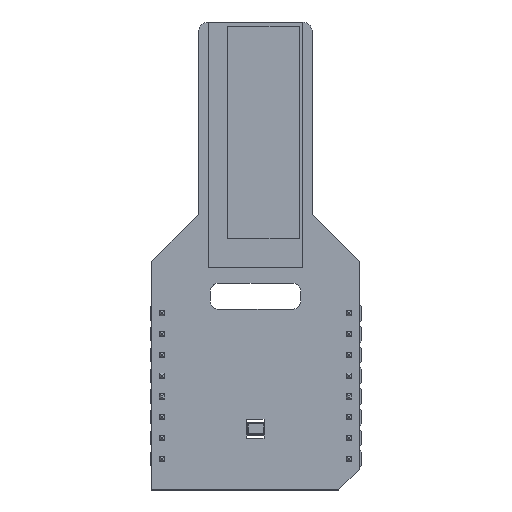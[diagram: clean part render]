
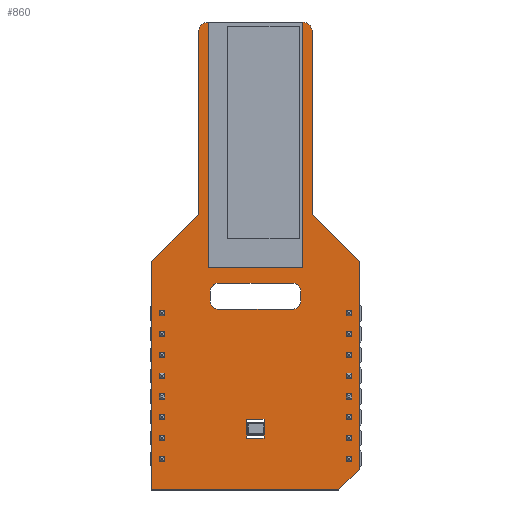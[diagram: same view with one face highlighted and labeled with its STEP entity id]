
A CAD part, top view. The second image highlights one B-rep face of the part: STEP entity #860.
In plain terms, the highlighted planar face has unit normal (0, 0, 1).
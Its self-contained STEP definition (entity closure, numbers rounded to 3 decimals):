
#107 = VERTEX_POINT('',#108);
#108 = CARTESIAN_POINT('',(-1.27,-3.81,0.));
#114 = EDGE_CURVE('',#107,#115,#117,.T.);
#115 = VERTEX_POINT('',#116);
#116 = CARTESIAN_POINT('',(-1.27,24.13,0.));
#117 = LINE('',#118,#119);
#118 = CARTESIAN_POINT('',(-1.27,-3.81,0.));
#119 = VECTOR('',#120,1.);
#120 = DIRECTION('',(0.,1.,0.));
#145 = EDGE_CURVE('',#115,#146,#148,.T.);
#146 = VERTEX_POINT('',#147);
#147 = CARTESIAN_POINT('',(4.47,29.87,0.));
#148 = LINE('',#149,#150);
#149 = CARTESIAN_POINT('',(-1.27,24.13,0.));
#150 = VECTOR('',#151,1.);
#151 = DIRECTION('',(0.707,0.707,0.));
#176 = EDGE_CURVE('',#146,#177,#179,.T.);
#177 = VERTEX_POINT('',#178);
#178 = CARTESIAN_POINT('',(4.47,52.197,0.));
#179 = LINE('',#180,#181);
#180 = CARTESIAN_POINT('',(4.47,29.87,0.));
#181 = VECTOR('',#182,1.);
#182 = DIRECTION('',(0.,1.,0.));
#207 = EDGE_CURVE('',#177,#208,#210,.T.);
#208 = VERTEX_POINT('',#209);
#209 = CARTESIAN_POINT('',(5.613,53.34,0.));
#210 = CIRCLE('',#211,1.144);
#211 = AXIS2_PLACEMENT_3D('',#212,#213,#214);
#212 = CARTESIAN_POINT('',(5.614,52.196,0.));
#213 = DIRECTION('',(0.,0.,-1.));
#214 = DIRECTION('',(-1.,0.001,0.));
#240 = EDGE_CURVE('',#208,#241,#243,.T.);
#241 = VERTEX_POINT('',#242);
#242 = CARTESIAN_POINT('',(17.221,53.34,0.));
#243 = LINE('',#244,#245);
#244 = CARTESIAN_POINT('',(5.613,53.34,0.));
#245 = VECTOR('',#246,1.);
#246 = DIRECTION('',(1.,0.,0.));
#271 = EDGE_CURVE('',#241,#272,#274,.T.);
#272 = VERTEX_POINT('',#273);
#273 = CARTESIAN_POINT('',(18.364,52.197,0.));
#274 = CIRCLE('',#275,1.144);
#275 = AXIS2_PLACEMENT_3D('',#276,#277,#278);
#276 = CARTESIAN_POINT('',(17.22,52.196,0.));
#277 = DIRECTION('',(0.,0.,-1.));
#278 = DIRECTION('',(0.001,1.,0.));
#304 = EDGE_CURVE('',#272,#305,#307,.T.);
#305 = VERTEX_POINT('',#306);
#306 = CARTESIAN_POINT('',(18.364,29.896,0.));
#307 = LINE('',#308,#309);
#308 = CARTESIAN_POINT('',(18.364,52.197,0.));
#309 = VECTOR('',#310,1.);
#310 = DIRECTION('',(0.,-1.,0.));
#335 = EDGE_CURVE('',#305,#336,#338,.T.);
#336 = VERTEX_POINT('',#337);
#337 = CARTESIAN_POINT('',(24.13,24.13,0.));
#338 = LINE('',#339,#340);
#339 = CARTESIAN_POINT('',(18.364,29.896,0.));
#340 = VECTOR('',#341,1.);
#341 = DIRECTION('',(0.707,-0.707,0.));
#366 = EDGE_CURVE('',#336,#367,#369,.T.);
#367 = VERTEX_POINT('',#368);
#368 = CARTESIAN_POINT('',(24.13,-1.27,0.));
#369 = LINE('',#370,#371);
#370 = CARTESIAN_POINT('',(24.13,24.13,0.));
#371 = VECTOR('',#372,1.);
#372 = DIRECTION('',(0.,-1.,0.));
#397 = EDGE_CURVE('',#367,#398,#400,.T.);
#398 = VERTEX_POINT('',#399);
#399 = CARTESIAN_POINT('',(21.59,-3.81,0.));
#400 = LINE('',#401,#402);
#401 = CARTESIAN_POINT('',(24.13,-1.27,0.));
#402 = VECTOR('',#403,1.);
#403 = DIRECTION('',(-0.707,-0.707,0.));
#428 = EDGE_CURVE('',#398,#107,#429,.T.);
#429 = LINE('',#430,#431);
#430 = CARTESIAN_POINT('',(21.59,-3.81,0.));
#431 = VECTOR('',#432,1.);
#432 = DIRECTION('',(-1.,0.,0.));
#452 = VERTEX_POINT('',#453);
#453 = CARTESIAN_POINT('',(5.918,20.472,0.));
#459 = EDGE_CURVE('',#452,#460,#462,.T.);
#460 = VERTEX_POINT('',#461);
#461 = CARTESIAN_POINT('',(5.919,19.293,0.));
#462 = LINE('',#463,#464);
#463 = CARTESIAN_POINT('',(5.918,20.472,0.));
#464 = VECTOR('',#465,1.);
#465 = DIRECTION('',(0.001,-1.,0.));
#492 = VERTEX_POINT('',#493);
#493 = CARTESIAN_POINT('',(6.934,21.483,0.));
#499 = EDGE_CURVE('',#492,#452,#500,.T.);
#500 = CIRCLE('',#501,1.016);
#501 = AXIS2_PLACEMENT_3D('',#502,#503,#504);
#502 = CARTESIAN_POINT('',(6.934,20.467,0.));
#503 = DIRECTION('',(0.,0.,1.));
#504 = DIRECTION('',(0.,1.,0.));
#525 = VERTEX_POINT('',#526);
#526 = CARTESIAN_POINT('',(15.941,21.483,0.));
#532 = EDGE_CURVE('',#525,#492,#533,.T.);
#533 = LINE('',#534,#535);
#534 = CARTESIAN_POINT('',(15.941,21.483,0.));
#535 = VECTOR('',#536,1.);
#536 = DIRECTION('',(-1.,0.,0.));
#556 = VERTEX_POINT('',#557);
#557 = CARTESIAN_POINT('',(16.941,20.483,0.));
#563 = EDGE_CURVE('',#556,#525,#564,.T.);
#564 = CIRCLE('',#565,0.999);
#565 = AXIS2_PLACEMENT_3D('',#566,#567,#568);
#566 = CARTESIAN_POINT('',(15.942,20.484,0.));
#567 = DIRECTION('',(0.,0.,1.));
#568 = DIRECTION('',(1.,-0.001,0.));
#589 = VERTEX_POINT('',#590);
#590 = CARTESIAN_POINT('',(16.942,19.293,0.));
#596 = EDGE_CURVE('',#589,#556,#597,.T.);
#597 = LINE('',#598,#599);
#598 = CARTESIAN_POINT('',(16.942,19.293,0.));
#599 = VECTOR('',#600,1.);
#600 = DIRECTION('',(-0.001,1.,0.));
#620 = VERTEX_POINT('',#621);
#621 = CARTESIAN_POINT('',(15.939,18.293,0.));
#627 = EDGE_CURVE('',#620,#589,#628,.T.);
#628 = CIRCLE('',#629,0.995);
#629 = AXIS2_PLACEMENT_3D('',#630,#631,#632);
#630 = CARTESIAN_POINT('',(15.947,19.288,0.));
#631 = DIRECTION('',(0.,0.,1.));
#632 = DIRECTION('',(-0.008,-1.,0.));
#653 = VERTEX_POINT('',#654);
#654 = CARTESIAN_POINT('',(6.919,18.293,0.));
#660 = EDGE_CURVE('',#653,#620,#661,.T.);
#661 = LINE('',#662,#663);
#662 = CARTESIAN_POINT('',(6.919,18.293,0.));
#663 = VECTOR('',#664,1.);
#664 = DIRECTION('',(1.,0.,0.));
#682 = EDGE_CURVE('',#460,#653,#683,.T.);
#683 = CIRCLE('',#684,1.);
#684 = AXIS2_PLACEMENT_3D('',#685,#686,#687);
#685 = CARTESIAN_POINT('',(6.919,19.293,0.));
#686 = DIRECTION('',(0.,0.,1.));
#687 = DIRECTION('',(-1.,0.,0.));
#708 = VERTEX_POINT('',#709);
#709 = CARTESIAN_POINT('',(12.471,2.532,0.));
#715 = EDGE_CURVE('',#708,#716,#718,.T.);
#716 = VERTEX_POINT('',#717);
#717 = CARTESIAN_POINT('',(12.471,4.832,0.));
#718 = LINE('',#719,#720);
#719 = CARTESIAN_POINT('',(12.471,2.532,0.));
#720 = VECTOR('',#721,1.);
#721 = DIRECTION('',(0.,1.,0.));
#748 = VERTEX_POINT('',#749);
#749 = CARTESIAN_POINT('',(10.39,2.532,0.));
#755 = EDGE_CURVE('',#748,#708,#756,.T.);
#756 = LINE('',#757,#758);
#757 = CARTESIAN_POINT('',(10.39,2.532,0.));
#758 = VECTOR('',#759,1.);
#759 = DIRECTION('',(1.,0.,0.));
#779 = VERTEX_POINT('',#780);
#780 = CARTESIAN_POINT('',(10.389,4.832,0.));
#786 = EDGE_CURVE('',#779,#748,#787,.T.);
#787 = LINE('',#788,#789);
#788 = CARTESIAN_POINT('',(10.389,4.832,0.));
#789 = VECTOR('',#790,1.);
#790 = DIRECTION('',(0.,-1.,0.));
#808 = EDGE_CURVE('',#716,#779,#809,.T.);
#809 = LINE('',#810,#811);
#810 = CARTESIAN_POINT('',(12.471,4.832,0.));
#811 = VECTOR('',#812,1.);
#812 = DIRECTION('',(-1.,0.,0.));
#860 = ADVANCED_FACE('',(#861,#874,#884),#890,.T.);
#861 = FACE_BOUND('',#862,.F.);
#862 = EDGE_LOOP('',(#863,#864,#865,#866,#867,#868,#869,#870,#871,#872,
    #873));
#863 = ORIENTED_EDGE('',*,*,#114,.T.);
#864 = ORIENTED_EDGE('',*,*,#145,.T.);
#865 = ORIENTED_EDGE('',*,*,#176,.T.);
#866 = ORIENTED_EDGE('',*,*,#207,.T.);
#867 = ORIENTED_EDGE('',*,*,#240,.T.);
#868 = ORIENTED_EDGE('',*,*,#271,.T.);
#869 = ORIENTED_EDGE('',*,*,#304,.T.);
#870 = ORIENTED_EDGE('',*,*,#335,.T.);
#871 = ORIENTED_EDGE('',*,*,#366,.T.);
#872 = ORIENTED_EDGE('',*,*,#397,.T.);
#873 = ORIENTED_EDGE('',*,*,#428,.T.);
#874 = FACE_BOUND('',#875,.T.);
#875 = EDGE_LOOP('',(#876,#877,#878,#879,#880,#881,#882,#883));
#876 = ORIENTED_EDGE('',*,*,#459,.F.);
#877 = ORIENTED_EDGE('',*,*,#499,.F.);
#878 = ORIENTED_EDGE('',*,*,#532,.F.);
#879 = ORIENTED_EDGE('',*,*,#563,.F.);
#880 = ORIENTED_EDGE('',*,*,#596,.F.);
#881 = ORIENTED_EDGE('',*,*,#627,.F.);
#882 = ORIENTED_EDGE('',*,*,#660,.F.);
#883 = ORIENTED_EDGE('',*,*,#682,.F.);
#884 = FACE_BOUND('',#885,.T.);
#885 = EDGE_LOOP('',(#886,#887,#888,#889));
#886 = ORIENTED_EDGE('',*,*,#715,.F.);
#887 = ORIENTED_EDGE('',*,*,#755,.F.);
#888 = ORIENTED_EDGE('',*,*,#786,.F.);
#889 = ORIENTED_EDGE('',*,*,#808,.F.);
#890 = PLANE('',#891);
#891 = AXIS2_PLACEMENT_3D('',#892,#893,#894);
#892 = CARTESIAN_POINT('',(-1.27,-3.81,0.));
#893 = DIRECTION('',(0.,0.,1.));
#894 = DIRECTION('',(1.,0.,0.));
